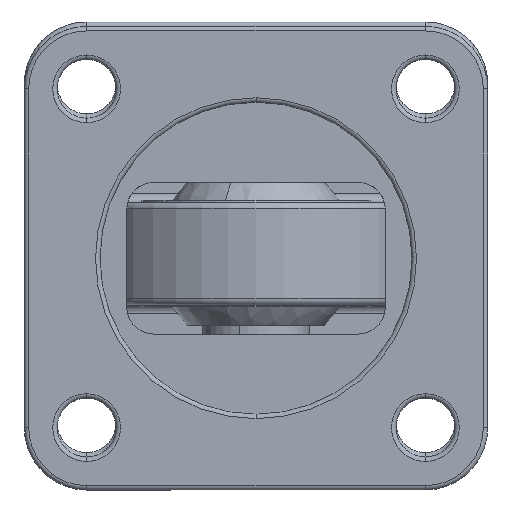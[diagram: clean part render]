
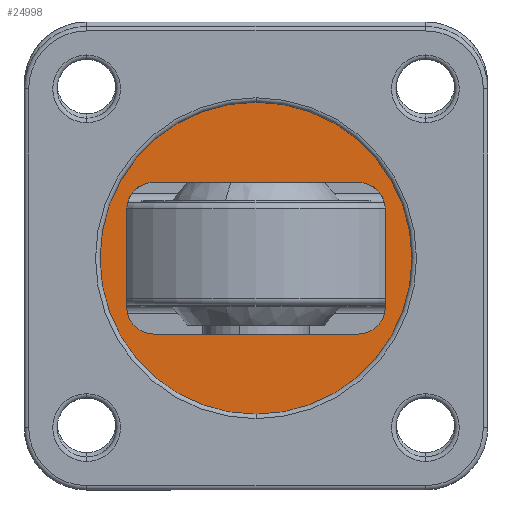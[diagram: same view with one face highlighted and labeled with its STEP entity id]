
A CAD part, front view. The second image highlights one B-rep face of the part: STEP entity #24998.
In plain terms, the highlighted planar face has unit normal (0, -1, 0).
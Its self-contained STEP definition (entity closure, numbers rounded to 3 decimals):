
#590 = DIRECTION ( 'NONE',  ( 0., 0., -1. ) ) ;
#942 = ORIENTED_EDGE ( 'NONE', *, *, #25370, .T. ) ;
#999 = CARTESIAN_POINT ( 'NONE',  ( 0., 5., -17.5 ) ) ;
#1021 = VECTOR ( 'NONE', #17750, 1000. ) ;
#2093 = VERTEX_POINT ( 'NONE', #25808 ) ;
#2410 = EDGE_CURVE ( 'NONE', #20672, #4983, #12819, .T. ) ;
#3369 = FACE_OUTER_BOUND ( 'NONE', #7663, .T. ) ;
#3506 = ORIENTED_EDGE ( 'NONE', *, *, #11566, .T. ) ;
#3600 = AXIS2_PLACEMENT_3D ( 'NONE', #9295, #7537, #21882 ) ;
#3736 = CIRCLE ( 'NONE', #4087, 3. ) ;
#3745 = CARTESIAN_POINT ( 'NONE',  ( 0., 5., 0. ) ) ;
#3811 = CARTESIAN_POINT ( 'NONE',  ( 0., 5., 17.5 ) ) ;
#3973 = DIRECTION ( 'NONE',  ( 0., 1., 0. ) ) ;
#4087 = AXIS2_PLACEMENT_3D ( 'NONE', #10955, #25233, #13001 ) ;
#4127 = ORIENTED_EDGE ( 'NONE', *, *, #9615, .T. ) ;
#4517 = DIRECTION ( 'NONE',  ( 0., 0., -1. ) ) ;
#4983 = VERTEX_POINT ( 'NONE', #3811 ) ;
#5135 = AXIS2_PLACEMENT_3D ( 'NONE', #25266, #13035, #590 ) ;
#5424 = CARTESIAN_POINT ( 'NONE',  ( -14.5, 5., -5.5 ) ) ;
#5429 = PLANE ( 'NONE',  #3600 ) ;
#5831 = DIRECTION ( 'NONE',  ( 0., 0., -1. ) ) ;
#5972 = LINE ( 'NONE', #22508, #21758 ) ;
#6698 = ORIENTED_EDGE ( 'NONE', *, *, #8403, .T. ) ;
#6892 = CIRCLE ( 'NONE', #23265, 3. ) ;
#7306 = AXIS2_PLACEMENT_3D ( 'NONE', #3745, #18178, #5831 ) ;
#7341 = DIRECTION ( 'NONE',  ( 0., 0., -1. ) ) ;
#7405 = DIRECTION ( 'NONE',  ( 0., -1., 0. ) ) ;
#7435 = CARTESIAN_POINT ( 'NONE',  ( 0., 5., 0. ) ) ;
#7537 = DIRECTION ( 'NONE',  ( 0., -1., 0. ) ) ;
#7663 = EDGE_LOOP ( 'NONE', ( #12663, #942 ) ) ;
#7811 = DIRECTION ( 'NONE',  ( 0., 1., 0. ) ) ;
#8403 = EDGE_CURVE ( 'NONE', #26328, #2093, #12692, .T. ) ;
#8575 = CIRCLE ( 'NONE', #7306, 17.5 ) ;
#8933 = FACE_BOUND ( 'NONE', #12651, .T. ) ;
#9295 = CARTESIAN_POINT ( 'NONE',  ( -17.5, 5., 0. ) ) ;
#9615 = EDGE_CURVE ( 'NONE', #12817, #10119, #26057, .T. ) ;
#9853 = VECTOR ( 'NONE', #4517, 1000. ) ;
#10109 = ORIENTED_EDGE ( 'NONE', *, *, #17627, .T. ) ;
#10119 = VERTEX_POINT ( 'NONE', #18724 ) ;
#10350 = VERTEX_POINT ( 'NONE', #17264 ) ;
#10372 = DIRECTION ( 'NONE',  ( 1., 0., 0. ) ) ;
#10955 = CARTESIAN_POINT ( 'NONE',  ( -11.5, 5., 5.5 ) ) ;
#11122 = LINE ( 'NONE', #18643, #15884 ) ;
#11566 = EDGE_CURVE ( 'NONE', #22252, #19611, #5972, .T. ) ;
#12651 = EDGE_LOOP ( 'NONE', ( #4127, #23413, #22267, #6698, #14386, #3506, #14097, #10109 ) ) ;
#12663 = ORIENTED_EDGE ( 'NONE', *, *, #2410, .T. ) ;
#12692 = LINE ( 'NONE', #5424, #1021 ) ;
#12817 = VERTEX_POINT ( 'NONE', #19354 ) ;
#12819 = CIRCLE ( 'NONE', #23486, 17.5 ) ;
#12957 = VERTEX_POINT ( 'NONE', #18254 ) ;
#13001 = DIRECTION ( 'NONE',  ( 0., 0., -1. ) ) ;
#13035 = DIRECTION ( 'NONE',  ( 0., 1., 0. ) ) ;
#13274 = EDGE_CURVE ( 'NONE', #10350, #26328, #6892, .T. ) ;
#13390 = EDGE_CURVE ( 'NONE', #10119, #10350, #11122, .T. ) ;
#14097 = ORIENTED_EDGE ( 'NONE', *, *, #21012, .T. ) ;
#14386 = ORIENTED_EDGE ( 'NONE', *, *, #23925, .T. ) ;
#15457 = CIRCLE ( 'NONE', #5135, 3. ) ;
#15884 = VECTOR ( 'NONE', #22740, 1000. ) ;
#16329 = CARTESIAN_POINT ( 'NONE',  ( 11.5, 5., -5.5 ) ) ;
#16867 = CARTESIAN_POINT ( 'NONE',  ( 14.5, 5., -5.5 ) ) ;
#17264 = CARTESIAN_POINT ( 'NONE',  ( -11.5, 5., -8.5 ) ) ;
#17505 = CARTESIAN_POINT ( 'NONE',  ( -11.5, 5., 8.5 ) ) ;
#17627 = EDGE_CURVE ( 'NONE', #12957, #12817, #21363, .T. ) ;
#17750 = DIRECTION ( 'NONE',  ( 0., 0., 1. ) ) ;
#18178 = DIRECTION ( 'NONE',  ( 0., -1., 0. ) ) ;
#18254 = CARTESIAN_POINT ( 'NONE',  ( 14.5, 5., 5.5 ) ) ;
#18411 = DIRECTION ( 'NONE',  ( 0., 0., -1. ) ) ;
#18643 = CARTESIAN_POINT ( 'NONE',  ( 0., 5., -8.5 ) ) ;
#18724 = CARTESIAN_POINT ( 'NONE',  ( 11.5, 5., -8.5 ) ) ;
#19017 = CARTESIAN_POINT ( 'NONE',  ( -14.5, 5., -5.5 ) ) ;
#19354 = CARTESIAN_POINT ( 'NONE',  ( 14.5, 5., -5.5 ) ) ;
#19611 = VERTEX_POINT ( 'NONE', #24199 ) ;
#20103 = CARTESIAN_POINT ( 'NONE',  ( -11.5, 5., -5.5 ) ) ;
#20672 = VERTEX_POINT ( 'NONE', #999 ) ;
#21012 = EDGE_CURVE ( 'NONE', #19611, #12957, #15457, .T. ) ;
#21363 = LINE ( 'NONE', #16867, #9853 ) ;
#21758 = VECTOR ( 'NONE', #10372, 1000. ) ;
#21882 = DIRECTION ( 'NONE',  ( 0., 0., -1. ) ) ;
#22142 = DIRECTION ( 'NONE',  ( 0., 0., -1. ) ) ;
#22252 = VERTEX_POINT ( 'NONE', #17505 ) ;
#22267 = ORIENTED_EDGE ( 'NONE', *, *, #13274, .T. ) ;
#22508 = CARTESIAN_POINT ( 'NONE',  ( 0., 5., 8.5 ) ) ;
#22514 = AXIS2_PLACEMENT_3D ( 'NONE', #16329, #3973, #18411 ) ;
#22740 = DIRECTION ( 'NONE',  ( -1., 0., 0. ) ) ;
#23265 = AXIS2_PLACEMENT_3D ( 'NONE', #20103, #7811, #22142 ) ;
#23413 = ORIENTED_EDGE ( 'NONE', *, *, #13390, .T. ) ;
#23486 = AXIS2_PLACEMENT_3D ( 'NONE', #7435, #7405, #7341 ) ;
#23925 = EDGE_CURVE ( 'NONE', #2093, #22252, #3736, .T. ) ;
#24199 = CARTESIAN_POINT ( 'NONE',  ( 11.5, 5., 8.5 ) ) ;
#24998 = ADVANCED_FACE ( 'NONE', ( #3369, #8933 ), #5429, .T. ) ;
#25233 = DIRECTION ( 'NONE',  ( 0., 1., 0. ) ) ;
#25266 = CARTESIAN_POINT ( 'NONE',  ( 11.5, 5., 5.5 ) ) ;
#25370 = EDGE_CURVE ( 'NONE', #4983, #20672, #8575, .T. ) ;
#25808 = CARTESIAN_POINT ( 'NONE',  ( -14.5, 5., 5.5 ) ) ;
#26057 = CIRCLE ( 'NONE', #22514, 3. ) ;
#26328 = VERTEX_POINT ( 'NONE', #19017 ) ;
